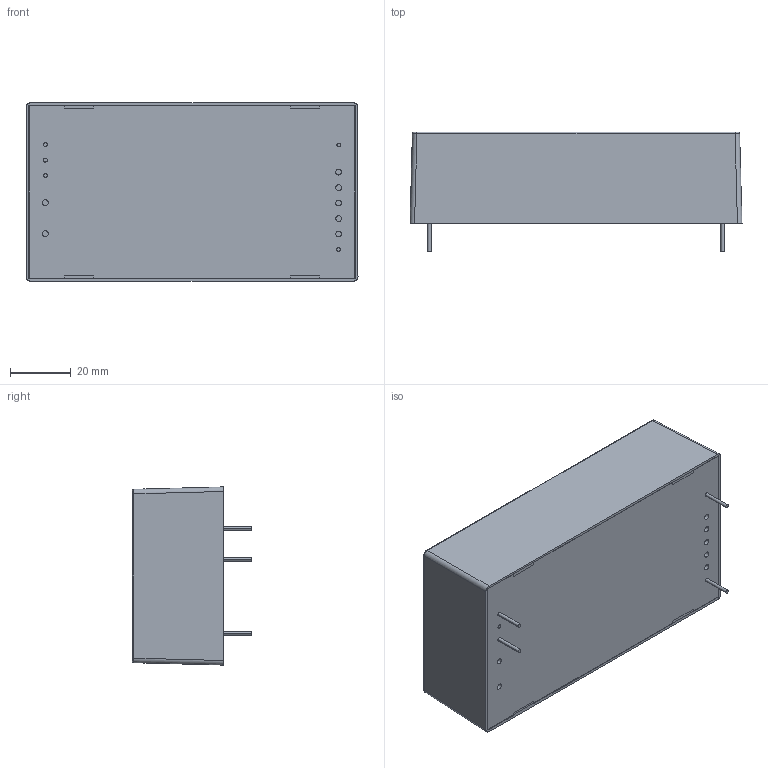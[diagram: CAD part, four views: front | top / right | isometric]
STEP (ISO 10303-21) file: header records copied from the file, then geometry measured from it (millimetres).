
FILE_DESCRIPTION((''),'2;1');
FILE_NAME('LHE60-23BXX_ASM_ASM_5_ASM','2023-02-28T',('pe205'),(''),'PRO/ENGINEER BY PARAMETRIC TECHNOLOGY CORPORATION, 2014000','PRO/ENGINEER BY PARAMETRIC TECHNOLOGY CORPORATION, 2014000','');
FILE_SCHEMA(('CONFIG_CONTROL_DESIGN'));
Length unit declared in the file: millimetre
Products named in the file (8): MANIFOLD_SOLID_BREP_12706_1_2_1; LH60-20B_SW0001_1_ASM_1_ASM_3_A_ASM; LH60-20BXX_-DT__ASM_1_ASM_2_ASM_ASM; 11050074_LHE60_M_-A_1_4_2; LHE60-23BXX_ASM_1_ASM_2_ASM_1_ASM; 16010031_1_1; LHE60-23BXX_ASM_4_ASM_1_ASM; LHE60-23BXX_ASM_ASM_5_ASM
Assembly tree (10 placements, depth 6):
  LHE60-23BXX_ASM_ASM_5_ASM
    LHE60-23BXX_ASM_4_ASM_1_ASM
      LHE60-23BXX_ASM_1_ASM_2_ASM_1_ASM
        LH60-20BXX_-DT__ASM_1_ASM_2_ASM_ASM
          LH60-20B_SW0001_1_ASM_1_ASM_3_A_ASM
            MANIFOLD_SOLID_BREP_12706_1_2_1
        11050074_LHE60_M_-A_1_4_2
      16010031_1_1  x4
Bounding box: 109 x 39.3 x 58.5 mm (x, y, z)
Volume: 192782.6 mm3; surface area: 36953.4 mm2
Topology: 6 solids, 6 shells, 129 faces, 333 edges, 225 vertices
Faces by surface type: plane 65, cylinder 60, torus 4
Entity records: 5044 total; most frequent: CARTESIAN_POINT 752, DIRECTION 570, ORIENTED_EDGE 558, PRESENTATION_STYLE_ASSIGNMENT 337, STYLED_ITEM 282, CURVE_STYLE 279, EDGE_CURVE 279, AXIS2_PLACEMENT_3D 199
